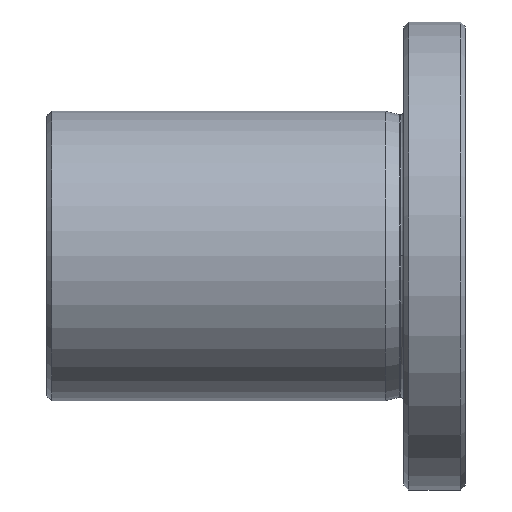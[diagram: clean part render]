
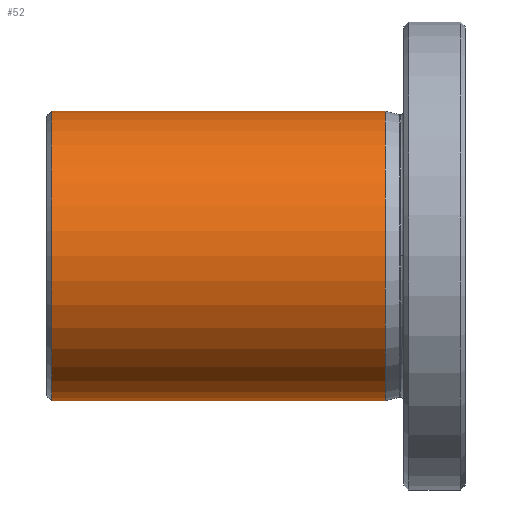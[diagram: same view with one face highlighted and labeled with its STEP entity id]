
A CAD part, top view. The second image highlights one B-rep face of the part: STEP entity #52.
In plain terms, the highlighted cylindrical face has radius 23.5 mm (diameter 47 mm), a partial arc.
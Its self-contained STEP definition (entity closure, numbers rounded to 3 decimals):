
#12 = CARTESIAN_POINT ( 'NONE',  ( 0.8, 0., 0. ) ) ;
#16 = CYLINDRICAL_SURFACE ( 'NONE', #986, 23.5 ) ;
#38 = VECTOR ( 'NONE', #888, 1000. ) ;
#52 = ADVANCED_FACE ( 'NONE', ( #1416 ), #16, .T. ) ;
#80 = CARTESIAN_POINT ( 'NONE',  ( 27.9, -23.5, 0. ) ) ;
#90 = AXIS2_PLACEMENT_3D ( 'NONE', #998, #1347, #138 ) ;
#106 = ORIENTED_EDGE ( 'NONE', *, *, #256, .T. ) ;
#138 = DIRECTION ( 'NONE',  ( 0., 1., 0. ) ) ;
#205 = CARTESIAN_POINT ( 'NONE',  ( 55., 23.5, 0. ) ) ;
#256 = EDGE_CURVE ( 'NONE', #341, #869, #769, .T. ) ;
#341 = VERTEX_POINT ( 'NONE', #1456 ) ;
#343 = DIRECTION ( 'NONE',  ( 0., 1., 0. ) ) ;
#358 = VERTEX_POINT ( 'NONE', #1159 ) ;
#391 = AXIS2_PLACEMENT_3D ( 'NONE', #12, #576, #343 ) ;
#486 = EDGE_CURVE ( 'NONE', #1528, #869, #1003, .T. ) ;
#506 = CARTESIAN_POINT ( 'NONE',  ( 0.8, 23.5, 0. ) ) ;
#533 = VECTOR ( 'NONE', #581, 1000. ) ;
#576 = DIRECTION ( 'NONE',  ( -1., 0., 0. ) ) ;
#581 = DIRECTION ( 'NONE',  ( 1., 0., 0. ) ) ;
#608 = EDGE_LOOP ( 'NONE', ( #949, #1518, #106, #1393 ) ) ;
#667 = CIRCLE ( 'NONE', #391, 23.5 ) ;
#769 = CIRCLE ( 'NONE', #90, 23.5 ) ;
#844 = DIRECTION ( 'NONE',  ( 1., 0., 0. ) ) ;
#855 = CARTESIAN_POINT ( 'NONE',  ( 27.9, 0., 0. ) ) ;
#869 = VERTEX_POINT ( 'NONE', #205 ) ;
#888 = DIRECTION ( 'NONE',  ( 1., 0., 0. ) ) ;
#902 = CARTESIAN_POINT ( 'NONE',  ( 27.9, 23.5, 0. ) ) ;
#910 = LINE ( 'NONE', #80, #533 ) ;
#949 = ORIENTED_EDGE ( 'NONE', *, *, #1029, .F. ) ;
#986 = AXIS2_PLACEMENT_3D ( 'NONE', #855, #844, #1170 ) ;
#998 = CARTESIAN_POINT ( 'NONE',  ( 55., 0., 0. ) ) ;
#1003 = LINE ( 'NONE', #902, #38 ) ;
#1029 = EDGE_CURVE ( 'NONE', #358, #1528, #667, .T. ) ;
#1159 = CARTESIAN_POINT ( 'NONE',  ( 0.8, -23.5, 0. ) ) ;
#1170 = DIRECTION ( 'NONE',  ( 0., 1., 0. ) ) ;
#1347 = DIRECTION ( 'NONE',  ( -1., 0., 0. ) ) ;
#1393 = ORIENTED_EDGE ( 'NONE', *, *, #486, .F. ) ;
#1416 = FACE_OUTER_BOUND ( 'NONE', #608, .T. ) ;
#1456 = CARTESIAN_POINT ( 'NONE',  ( 55., -23.5, 0. ) ) ;
#1457 = EDGE_CURVE ( 'NONE', #358, #341, #910, .T. ) ;
#1518 = ORIENTED_EDGE ( 'NONE', *, *, #1457, .T. ) ;
#1528 = VERTEX_POINT ( 'NONE', #506 ) ;
